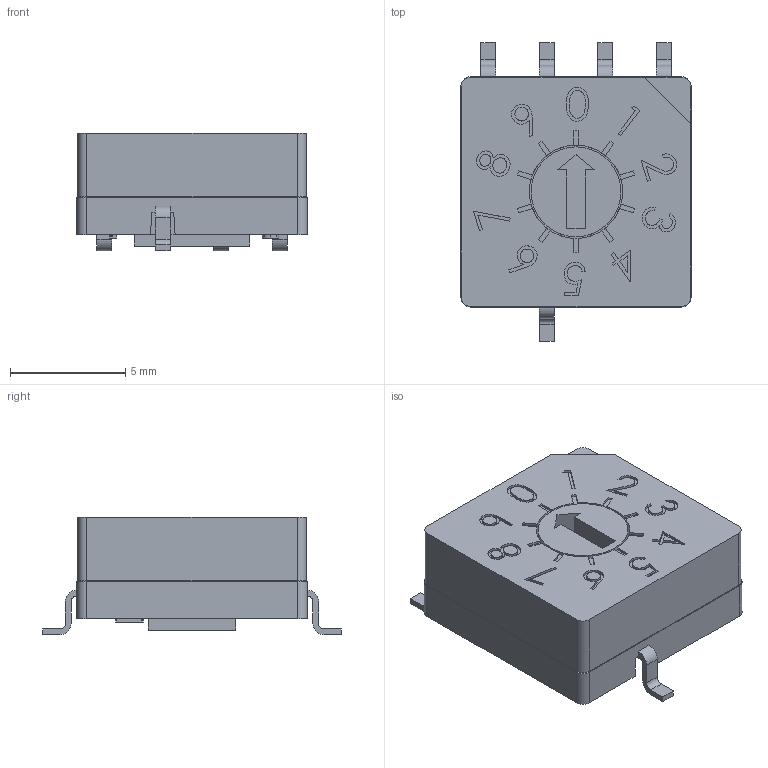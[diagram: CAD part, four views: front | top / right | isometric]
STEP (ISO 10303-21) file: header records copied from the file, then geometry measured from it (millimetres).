
FILE_DESCRIPTION (( 'STEP AP203' ), '1' );
FILE_NAME ('RKM4-10R.STEP', '2011-07-20T08:33:03', ( 'test' ), ( 'Microsoft' ), 'SwSTEP 2.0', 'SolidWorks 2008', '' );
FILE_SCHEMA (( 'CONFIG_CONTROL_DESIGN' ));
Length unit declared in the file: millimetre
Products named in the file (6): RK4T-M(成型)-1_預設; RKM4-10R; RK4B-M(塑膠)-1_預設; RK40-1_預設; RK4S-10R_預設; RK4C-HM_預設
Assembly tree (5 placements, depth 2):
  RKM4-10R
    RK4C-HM_預設
    RK40-1_預設
    RK4B-M(塑膠)-1_預設
    RK4T-M(成型)-1_預設
    RK4S-10R_預設
Bounding box: 10 x 12.98 x 5.1 mm (x, y, z)
Volume: 387.9 mm3; surface area: 1231 mm2
Topology: 5 solids, 5 shells, 969 faces, 2769 edges, 1840 vertices
Faces by surface type: plane 524, bspline 262, cylinder 181, cone 2
Entity records: 40612 total; most frequent: CARTESIAN_POINT 16040, ORIENTED_EDGE 5538, DIRECTION 4076, EDGE_CURVE 2769, LINE 1852, VECTOR 1852, VERTEX_POINT 1840, AXIS2_PLACEMENT_3D 1112
